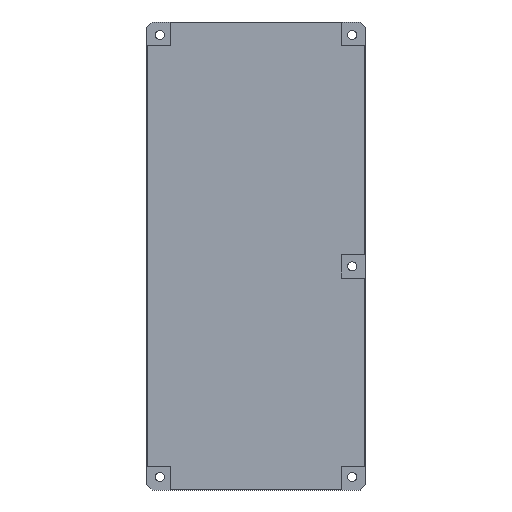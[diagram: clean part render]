
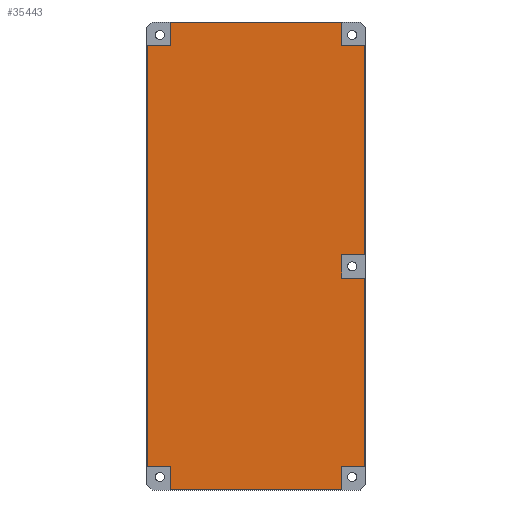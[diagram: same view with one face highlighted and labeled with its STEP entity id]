
A CAD part, front view. The second image highlights one B-rep face of the part: STEP entity #35443.
In plain terms, the highlighted planar face has unit normal (0, -1, 0).
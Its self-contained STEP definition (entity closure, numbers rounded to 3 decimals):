
#178 = EDGE_CURVE ( 'NONE', #3590, #71396, #15508, .T. ) ;
#465 = ORIENTED_EDGE ( 'NONE', *, *, #58056, .T. ) ;
#1552 = VERTEX_POINT ( 'NONE', #67415 ) ;
#1654 = DIRECTION ( 'NONE',  ( -1., 0., 0. ) ) ;
#1973 = ORIENTED_EDGE ( 'NONE', *, *, #22956, .T. ) ;
#3590 = VERTEX_POINT ( 'NONE', #46314 ) ;
#3813 = VECTOR ( 'NONE', #28298, 1000. ) ;
#4584 = VECTOR ( 'NONE', #46132, 1000. ) ;
#5620 = CARTESIAN_POINT ( 'NONE',  ( -42., -8., -89.5 ) ) ;
#5664 = CARTESIAN_POINT ( 'NONE',  ( -9., -8., -90. ) ) ;
#6234 = DIRECTION ( 'NONE',  ( -1., 0., 0. ) ) ;
#6264 = EDGE_CURVE ( 'NONE', #19841, #45747, #46370, .T. ) ;
#6420 = LINE ( 'NONE', #93578, #48282 ) ;
#8002 = ORIENTED_EDGE ( 'NONE', *, *, #60904, .T. ) ;
#8198 = VECTOR ( 'NONE', #6234, 1000. ) ;
#8660 = LINE ( 'NONE', #95863, #70921 ) ;
#9408 = EDGE_LOOP ( 'NONE', ( #46054, #1973, #83796, #12808, #49383, #43110, #25298, #465, #9567, #8002, #45398, #45978, #30144, #26140, #74608, #9805 ) ) ;
#9502 = CARTESIAN_POINT ( 'NONE',  ( -9., -8., -9. ) ) ;
#9567 = ORIENTED_EDGE ( 'NONE', *, *, #80276, .T. ) ;
#9805 = ORIENTED_EDGE ( 'NONE', *, *, #51219, .T. ) ;
#11126 = VECTOR ( 'NONE', #1654, 1000. ) ;
#11579 = CARTESIAN_POINT ( 'NONE',  ( -42., -8., -98.5 ) ) ;
#12808 = ORIENTED_EDGE ( 'NONE', *, *, #18275, .F. ) ;
#13160 = DIRECTION ( 'NONE',  ( -1., 0., 0. ) ) ;
#14954 = CARTESIAN_POINT ( 'NONE',  ( -75., -8., -9. ) ) ;
#15508 = LINE ( 'NONE', #5620, #55739 ) ;
#15639 = CARTESIAN_POINT ( 'NONE',  ( -83.9, -8., -9. ) ) ;
#15996 = CARTESIAN_POINT ( 'NONE',  ( -0.1, -8., -89.5 ) ) ;
#16120 = CARTESIAN_POINT ( 'NONE',  ( -42., -8., -9. ) ) ;
#16784 = DIRECTION ( 'NONE',  ( 0., 0., -1. ) ) ;
#16986 = VERTEX_POINT ( 'NONE', #44819 ) ;
#17124 = DIRECTION ( 'NONE',  ( 0., 0., -1. ) ) ;
#18275 = EDGE_CURVE ( 'NONE', #32964, #71396, #48052, .T. ) ;
#18940 = VERTEX_POINT ( 'NONE', #19262 ) ;
#19262 = CARTESIAN_POINT ( 'NONE',  ( -9., -8., -179.9 ) ) ;
#19841 = VERTEX_POINT ( 'NONE', #77745 ) ;
#20374 = VERTEX_POINT ( 'NONE', #68690 ) ;
#21503 = LINE ( 'NONE', #11579, #11126 ) ;
#22956 = EDGE_CURVE ( 'NONE', #78287, #3590, #6420, .T. ) ;
#23096 = DIRECTION ( 'NONE',  ( 0., -1., 0. ) ) ;
#23164 = DIRECTION ( 'NONE',  ( 1., 0., 0. ) ) ;
#23613 = LINE ( 'NONE', #60922, #67180 ) ;
#24052 = VERTEX_POINT ( 'NONE', #9502 ) ;
#24716 = EDGE_CURVE ( 'NONE', #20374, #16986, #23613, .T. ) ;
#25298 = ORIENTED_EDGE ( 'NONE', *, *, #6264, .T. ) ;
#26117 = LINE ( 'NONE', #16120, #8198 ) ;
#26140 = ORIENTED_EDGE ( 'NONE', *, *, #54388, .T. ) ;
#26172 = VERTEX_POINT ( 'NONE', #15639 ) ;
#26628 = DIRECTION ( 'NONE',  ( -1., 0., 0. ) ) ;
#26768 = CARTESIAN_POINT ( 'NONE',  ( -83.9, -8., -90. ) ) ;
#27111 = CARTESIAN_POINT ( 'NONE',  ( -75., -8., -90. ) ) ;
#28298 = DIRECTION ( 'NONE',  ( 0., 0., -1. ) ) ;
#28454 = VERTEX_POINT ( 'NONE', #56947 ) ;
#30144 = ORIENTED_EDGE ( 'NONE', *, *, #95814, .T. ) ;
#31053 = VECTOR ( 'NONE', #16784, 1000. ) ;
#32964 = VERTEX_POINT ( 'NONE', #66047 ) ;
#32981 = CARTESIAN_POINT ( 'NONE',  ( -0.1, -8., -0.1 ) ) ;
#33043 = CARTESIAN_POINT ( 'NONE',  ( -42., -8., -171. ) ) ;
#33900 = EDGE_CURVE ( 'NONE', #24052, #19841, #59544, .T. ) ;
#35443 = ADVANCED_FACE ( 'NONE', ( #63955 ), #42858, .T. ) ;
#36397 = VERTEX_POINT ( 'NONE', #83762 ) ;
#36482 = CARTESIAN_POINT ( 'NONE',  ( -42., -8., -0.1 ) ) ;
#36615 = LINE ( 'NONE', #26768, #31053 ) ;
#36932 = EDGE_CURVE ( 'NONE', #32964, #24052, #90656, .T. ) ;
#36953 = LINE ( 'NONE', #27111, #85210 ) ;
#38158 = CARTESIAN_POINT ( 'NONE',  ( -0.1, -8., -49.25 ) ) ;
#38798 = VECTOR ( 'NONE', #39665, 1000. ) ;
#39665 = DIRECTION ( 'NONE',  ( 0., 0., 1. ) ) ;
#40348 = CARTESIAN_POINT ( 'NONE',  ( -75., -8., -0.1 ) ) ;
#42166 = VECTOR ( 'NONE', #70716, 1000. ) ;
#42858 = PLANE ( 'NONE',  #81591 ) ;
#43092 = VECTOR ( 'NONE', #26628, 1000. ) ;
#43110 = ORIENTED_EDGE ( 'NONE', *, *, #33900, .T. ) ;
#44819 = CARTESIAN_POINT ( 'NONE',  ( -75., -8., -179.9 ) ) ;
#45268 = LINE ( 'NONE', #5664, #77564 ) ;
#45398 = ORIENTED_EDGE ( 'NONE', *, *, #71514, .T. ) ;
#45747 = VERTEX_POINT ( 'NONE', #40348 ) ;
#45978 = ORIENTED_EDGE ( 'NONE', *, *, #24716, .T. ) ;
#46054 = ORIENTED_EDGE ( 'NONE', *, *, #87627, .T. ) ;
#46132 = DIRECTION ( 'NONE',  ( 1., 0., 0. ) ) ;
#46314 = CARTESIAN_POINT ( 'NONE',  ( -9., -8., -89.5 ) ) ;
#46370 = LINE ( 'NONE', #36482, #43092 ) ;
#48052 = LINE ( 'NONE', #38158, #3813 ) ;
#48282 = VECTOR ( 'NONE', #83547, 1000. ) ;
#49383 = ORIENTED_EDGE ( 'NONE', *, *, #36932, .T. ) ;
#49483 = CARTESIAN_POINT ( 'NONE',  ( -0.1, -8., -171. ) ) ;
#49574 = CARTESIAN_POINT ( 'NONE',  ( -9., -8., -90. ) ) ;
#50972 = DIRECTION ( 'NONE',  ( 0., 0., -1. ) ) ;
#51219 = EDGE_CURVE ( 'NONE', #58784, #1552, #8660, .T. ) ;
#54388 = EDGE_CURVE ( 'NONE', #18940, #36397, #45268, .T. ) ;
#54420 = EDGE_CURVE ( 'NONE', #36397, #58784, #82779, .T. ) ;
#54476 = DIRECTION ( 'NONE',  ( 1., 0., 0. ) ) ;
#55739 = VECTOR ( 'NONE', #92757, 1000. ) ;
#56126 = CARTESIAN_POINT ( 'NONE',  ( -42., -8., -179.9 ) ) ;
#56947 = CARTESIAN_POINT ( 'NONE',  ( -83.9, -8., -171. ) ) ;
#58056 = EDGE_CURVE ( 'NONE', #45747, #90890, #36953, .T. ) ;
#58784 = VERTEX_POINT ( 'NONE', #49483 ) ;
#59445 = VECTOR ( 'NONE', #54476, 1000. ) ;
#59544 = LINE ( 'NONE', #49574, #38798 ) ;
#60904 = EDGE_CURVE ( 'NONE', #26172, #28454, #36615, .T. ) ;
#60922 = CARTESIAN_POINT ( 'NONE',  ( -75., -8., -90. ) ) ;
#63955 = FACE_OUTER_BOUND ( 'NONE', #9408, .T. ) ;
#64379 = CARTESIAN_POINT ( 'NONE',  ( -42., -8., -171. ) ) ;
#66047 = CARTESIAN_POINT ( 'NONE',  ( -0.1, -8., -9. ) ) ;
#66049 = LINE ( 'NONE', #56126, #4584 ) ;
#67180 = VECTOR ( 'NONE', #50972, 1000. ) ;
#67415 = CARTESIAN_POINT ( 'NONE',  ( -0.1, -8., -98.5 ) ) ;
#68690 = CARTESIAN_POINT ( 'NONE',  ( -75., -8., -171. ) ) ;
#70716 = DIRECTION ( 'NONE',  ( -1., 0., 0. ) ) ;
#70921 = VECTOR ( 'NONE', #85825, 1000. ) ;
#71396 = VERTEX_POINT ( 'NONE', #15996 ) ;
#71514 = EDGE_CURVE ( 'NONE', #28454, #20374, #74361, .T. ) ;
#74361 = LINE ( 'NONE', #64379, #59445 ) ;
#74608 = ORIENTED_EDGE ( 'NONE', *, *, #54420, .T. ) ;
#77564 = VECTOR ( 'NONE', #92804, 1000. ) ;
#77745 = CARTESIAN_POINT ( 'NONE',  ( -9., -8., -0.1 ) ) ;
#78287 = VERTEX_POINT ( 'NONE', #96133 ) ;
#80276 = EDGE_CURVE ( 'NONE', #90890, #26172, #26117, .T. ) ;
#80634 = CARTESIAN_POINT ( 'NONE',  ( -42., -8., -9. ) ) ;
#81591 = AXIS2_PLACEMENT_3D ( 'NONE', #32981, #23096, #13160 ) ;
#82779 = LINE ( 'NONE', #33043, #87625 ) ;
#83547 = DIRECTION ( 'NONE',  ( 0., 0., 1. ) ) ;
#83762 = CARTESIAN_POINT ( 'NONE',  ( -9., -8., -171. ) ) ;
#83796 = ORIENTED_EDGE ( 'NONE', *, *, #178, .T. ) ;
#85210 = VECTOR ( 'NONE', #17124, 1000. ) ;
#85825 = DIRECTION ( 'NONE',  ( 0., 0., 1. ) ) ;
#87625 = VECTOR ( 'NONE', #23164, 1000. ) ;
#87627 = EDGE_CURVE ( 'NONE', #1552, #78287, #21503, .T. ) ;
#90656 = LINE ( 'NONE', #80634, #42166 ) ;
#90890 = VERTEX_POINT ( 'NONE', #14954 ) ;
#92757 = DIRECTION ( 'NONE',  ( 1., 0., 0. ) ) ;
#92804 = DIRECTION ( 'NONE',  ( 0., 0., 1. ) ) ;
#93578 = CARTESIAN_POINT ( 'NONE',  ( -9., -8., -90. ) ) ;
#95814 = EDGE_CURVE ( 'NONE', #16986, #18940, #66049, .T. ) ;
#95863 = CARTESIAN_POINT ( 'NONE',  ( -0.1, -8., -90. ) ) ;
#96133 = CARTESIAN_POINT ( 'NONE',  ( -9., -8., -98.5 ) ) ;
